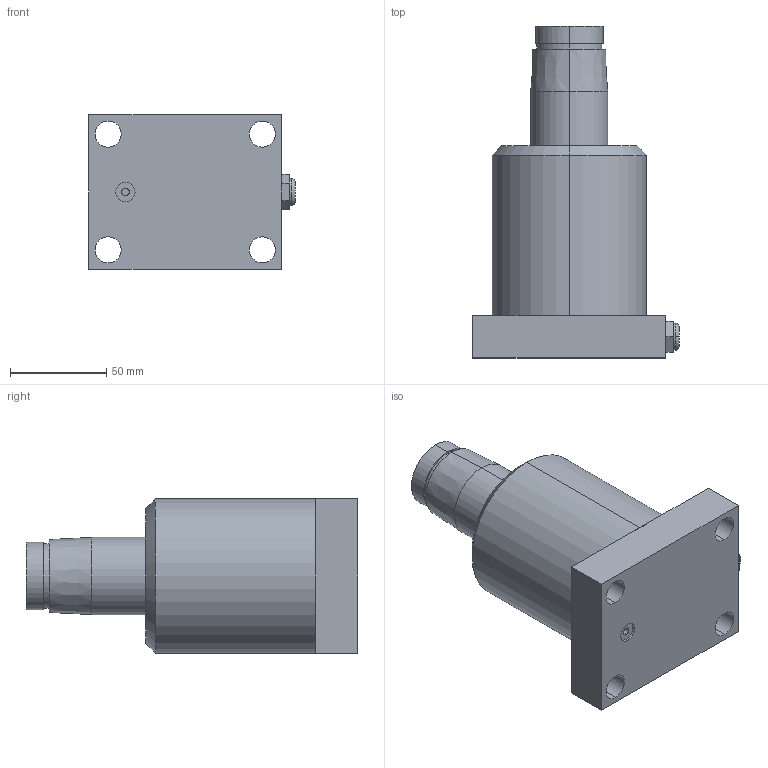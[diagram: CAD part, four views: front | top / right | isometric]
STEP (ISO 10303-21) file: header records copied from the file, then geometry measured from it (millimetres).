
FILE_DESCRIPTION (( 'STEP AP214' ), '1' );
FILE_NAME ('#HPS-50SC.STEP', '2021-10-18T08:29:46', ( '' ), ( '' ), 'SwSTEP 2.0', 'SolidWorks 2016', '' );
FILE_SCHEMA (( 'AUTOMOTIVE_DESIGN' ));
Length unit declared in the file: millimetre
Products named in the file (1): #HPS-50SC
Bounding box: 107 x 172 x 80 mm (x, y, z)
Volume: 674668.3 mm3; surface area: 56627.5 mm2
Topology: 1 solids, 2 shells, 54 faces, 120 edges, 75 vertices
Faces by surface type: cylinder 24, plane 22, cone 6, torus 2
Entity records: 1582 total; most frequent: DIRECTION 284, CARTESIAN_POINT 248, ORIENTED_EDGE 236, EDGE_CURVE 118, AXIS2_PLACEMENT_3D 111, VERTEX_POINT 75, EDGE_LOOP 69, LINE 62
